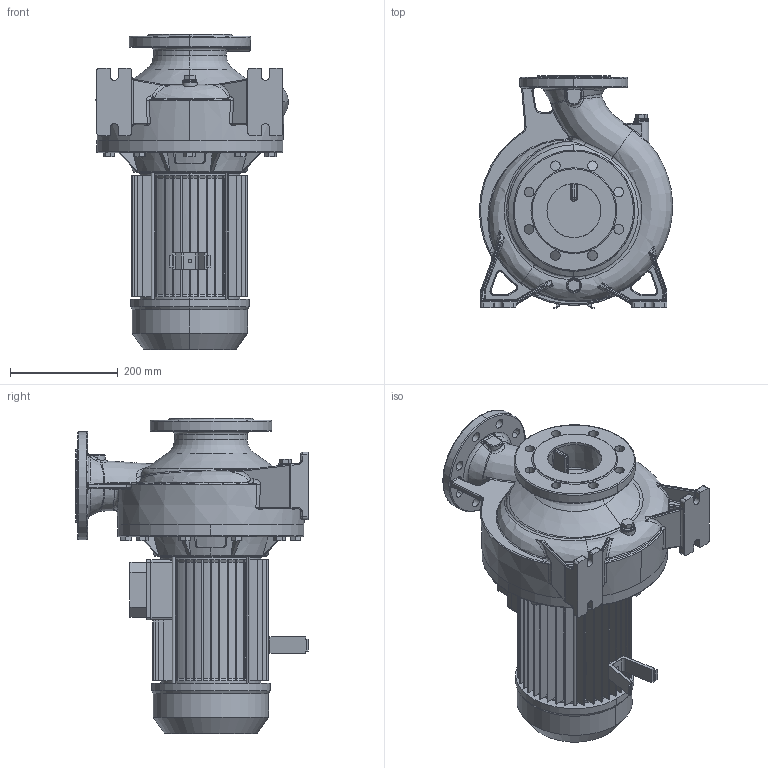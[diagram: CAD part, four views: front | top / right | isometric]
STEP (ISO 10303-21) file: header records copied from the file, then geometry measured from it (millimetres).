
FILE_DESCRIPTION((''),'2;1');
FILE_NAME('3M4_80-200_4_IE2_ASM','2018-06-04T',('rosa'),('"Ebara Pumps Europe +39.444.706811"'),'PRO/ENGINEER BY PARAMETRIC TECHNOLOGY CORPORATION, 2012130','PRO/ENGINEER BY PARAMETRIC TECHNOLOGY CORPORATION, 2012130','');
FILE_SCHEMA(('AUTOMOTIVE_DESIGN { 1 0 10303 214 1 1 1 1 }'));
Products named in the file (5): CORPO_POMPA_80-200; SUPPORTO_3M_266_112; MEC_112X160_180_IE2; SOSTEGNO_72075; 3M4_80-200_4_IE2_ASM
Assembly tree (4 placements, depth 2):
  3M4_80-200_4_IE2_ASM
    CORPO_POMPA_80-200
    SUPPORTO_3M_266_112
    MEC_112X160_180_IE2
    SOSTEGNO_72075
Bounding box: 358.03 x 430 x 584 mm (x, y, z)
Volume: 18887823.1 mm3; surface area: 1611509.3 mm2
Topology: 4 solids, 4 shells, 1232 faces, 2991 edges, 1801 vertices
Faces by surface type: plane 495, cylinder 306, bspline 208, torus 102, cone 100, sphere 21
Entity records: 58202 total; most frequent: CARTESIAN_POINT 21047, ORIENTED_EDGE 5980, DIRECTION 5383, PRESENTATION_STYLE_ASSIGNMENT 2994, STYLED_ITEM 2994, CURVE_STYLE 2990, EDGE_CURVE 2990, AXIS2_PLACEMENT_3D 2056
